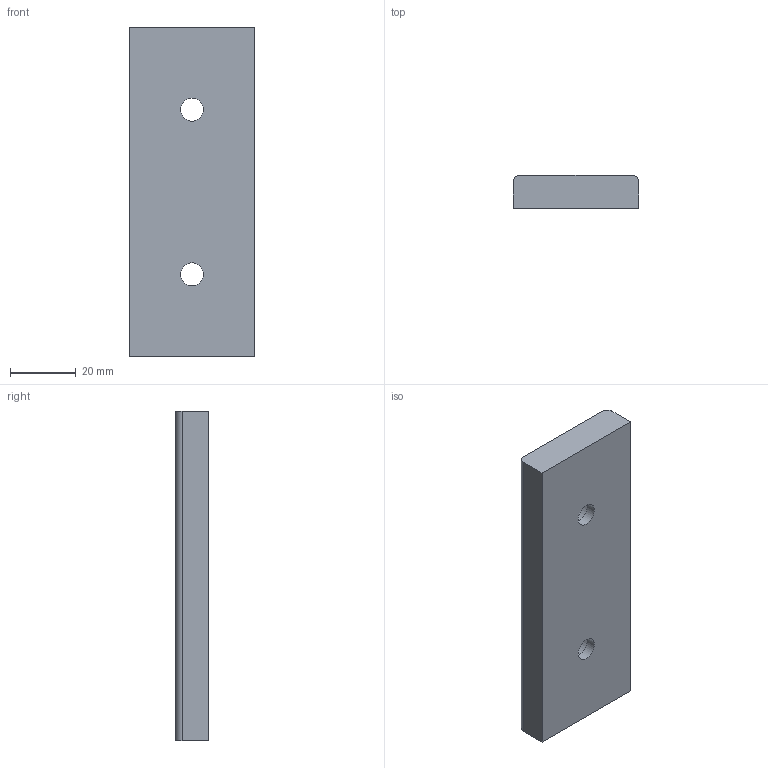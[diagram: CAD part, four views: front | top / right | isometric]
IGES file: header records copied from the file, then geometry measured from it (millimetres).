
Start section: Data from Parasolid IGES Translator 20.0.26, Copyright(c) 2006 Siemens P LM Software. All Rights Reserved.
Global section: file name: G220-01-038-100.igs; native system: By Siemens PLM Incorporated; preprocessor: XPlus GENERIC/IGES 20.0.26; author: Noname; organization: Noname; date: 20190708.082114; units: millimetre
Bounding box: 38 x 10 x 100 mm (x, y, z)
Surface area: 10646.7 mm2 (no closed solid volume)
Topology: 0 solids, 0 shells, 14 faces, 60 edges, 54 vertices
Faces by surface type: extrusion 8, revolution 6
